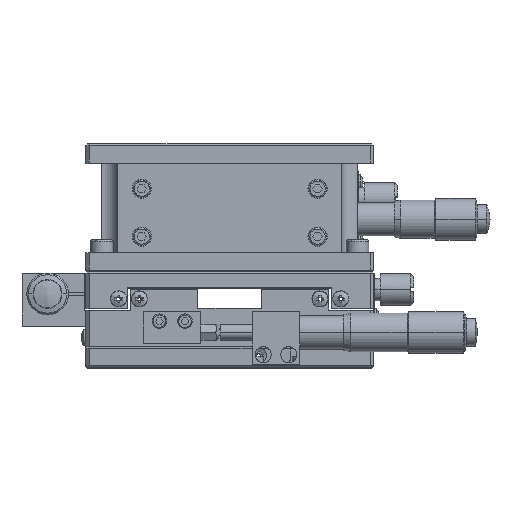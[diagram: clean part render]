
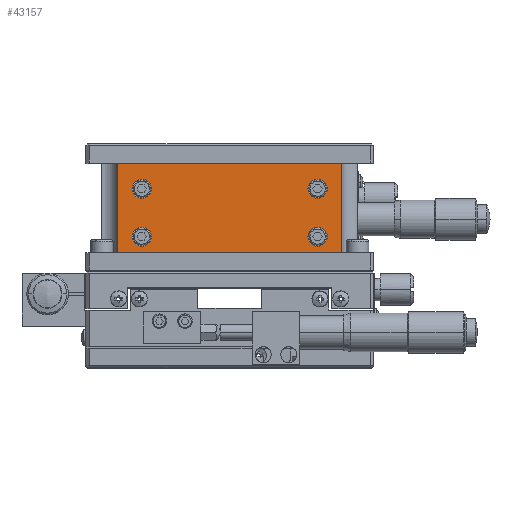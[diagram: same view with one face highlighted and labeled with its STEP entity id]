
A CAD part, top view. The second image highlights one B-rep face of the part: STEP entity #43157.
In plain terms, the highlighted planar face has unit normal (0, 0, 1).
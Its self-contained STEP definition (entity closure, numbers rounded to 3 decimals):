
#17 = VERTEX_POINT ( 'NONE', #25981 ) ;
#439 = EDGE_LOOP ( 'NONE', ( #16323, #31661 ) ) ;
#950 = VERTEX_POINT ( 'NONE', #19604 ) ;
#1837 = CIRCLE ( 'NONE', #23078, 3. ) ;
#1898 = DIRECTION ( 'NONE',  ( 0., -1., 0. ) ) ;
#1994 = ORIENTED_EDGE ( 'NONE', *, *, #4494, .T. ) ;
#2078 = CARTESIAN_POINT ( 'NONE',  ( 80., 6., 41.662 ) ) ;
#3914 = EDGE_LOOP ( 'NONE', ( #20111, #41822 ) ) ;
#4494 = EDGE_CURVE ( 'NONE', #19108, #22963, #44198, .T. ) ;
#4585 = DIRECTION ( 'NONE',  ( 1., 0., 0. ) ) ;
#5644 = LINE ( 'NONE', #12142, #23213 ) ;
#5698 = LINE ( 'NONE', #7726, #7457 ) ;
#6143 = ORIENTED_EDGE ( 'NONE', *, *, #32525, .F. ) ;
#6350 = CARTESIAN_POINT ( 'NONE',  ( 69.5, 11., 41.662 ) ) ;
#7008 = CIRCLE ( 'NONE', #16818, 3. ) ;
#7097 = EDGE_CURVE ( 'NONE', #34717, #19108, #5644, .T. ) ;
#7457 = VECTOR ( 'NONE', #45303, 1000. ) ;
#7595 = CARTESIAN_POINT ( 'NONE',  ( 14.5, 11., 41.662 ) ) ;
#7726 = CARTESIAN_POINT ( 'NONE',  ( 80., 6., 41.662 ) ) ;
#7972 = VERTEX_POINT ( 'NONE', #45528 ) ;
#8444 = CARTESIAN_POINT ( 'NONE',  ( 17.5, 26., 41.662 ) ) ;
#8669 = CIRCLE ( 'NONE', #41035, 3. ) ;
#8762 = DIRECTION ( 'NONE',  ( 0., 1., 0. ) ) ;
#8968 = CIRCLE ( 'NONE', #43972, 3. ) ;
#9902 = LINE ( 'NONE', #2078, #18725 ) ;
#10800 = VERTEX_POINT ( 'NONE', #37569 ) ;
#10808 = CARTESIAN_POINT ( 'NONE',  ( 72.5, 26., 41.662 ) ) ;
#10968 = DIRECTION ( 'NONE',  ( 1., 0., 0. ) ) ;
#12120 = DIRECTION ( 'NONE',  ( 1., 0., 0. ) ) ;
#12142 = CARTESIAN_POINT ( 'NONE',  ( 90., 34., 41.662 ) ) ;
#12719 = ORIENTED_EDGE ( 'NONE', *, *, #20443, .F. ) ;
#12988 = CARTESIAN_POINT ( 'NONE',  ( 75.5, 26., 41.662 ) ) ;
#13247 = EDGE_CURVE ( 'NONE', #28646, #27975, #7008, .T. ) ;
#13500 = ORIENTED_EDGE ( 'NONE', *, *, #43537, .F. ) ;
#14155 = EDGE_CURVE ( 'NONE', #27975, #28646, #8669, .T. ) ;
#15082 = DIRECTION ( 'NONE',  ( 0., 0., 1. ) ) ;
#15636 = CARTESIAN_POINT ( 'NONE',  ( 72.5, 11., 41.662 ) ) ;
#16265 = DIRECTION ( 'NONE',  ( 1., 0., 0. ) ) ;
#16286 = FACE_BOUND ( 'NONE', #439, .T. ) ;
#16323 = ORIENTED_EDGE ( 'NONE', *, *, #48179, .F. ) ;
#16474 = ORIENTED_EDGE ( 'NONE', *, *, #20285, .F. ) ;
#16818 = AXIS2_PLACEMENT_3D ( 'NONE', #22070, #37476, #22553 ) ;
#17032 = CARTESIAN_POINT ( 'NONE',  ( 10., 6., 41.662 ) ) ;
#17153 = DIRECTION ( 'NONE',  ( 1., 0., 0. ) ) ;
#17268 = VERTEX_POINT ( 'NONE', #6350 ) ;
#18725 = VECTOR ( 'NONE', #1898, 1000. ) ;
#18865 = AXIS2_PLACEMENT_3D ( 'NONE', #35009, #43088, #8762 ) ;
#19108 = VERTEX_POINT ( 'NONE', #23855 ) ;
#19539 = DIRECTION ( 'NONE',  ( 0., 0., 1. ) ) ;
#19604 = CARTESIAN_POINT ( 'NONE',  ( 69.5, 26., 41.662 ) ) ;
#20111 = ORIENTED_EDGE ( 'NONE', *, *, #14155, .F. ) ;
#20119 = EDGE_LOOP ( 'NONE', ( #45374, #12719 ) ) ;
#20285 = EDGE_CURVE ( 'NONE', #10800, #17268, #36951, .T. ) ;
#20443 = EDGE_CURVE ( 'NONE', #7972, #17, #48099, .T. ) ;
#20740 = CARTESIAN_POINT ( 'NONE',  ( 72.5, 11., 41.662 ) ) ;
#21052 = ORIENTED_EDGE ( 'NONE', *, *, #45861, .F. ) ;
#22070 = CARTESIAN_POINT ( 'NONE',  ( 17.5, 11., 41.662 ) ) ;
#22553 = DIRECTION ( 'NONE',  ( 1., 0., 0. ) ) ;
#22824 = DIRECTION ( 'NONE',  ( 0., 0., 1. ) ) ;
#22963 = VERTEX_POINT ( 'NONE', #37670 ) ;
#23078 = AXIS2_PLACEMENT_3D ( 'NONE', #8444, #38183, #4585 ) ;
#23213 = VECTOR ( 'NONE', #27645, 1000. ) ;
#23506 = FACE_BOUND ( 'NONE', #20119, .T. ) ;
#23626 = CARTESIAN_POINT ( 'NONE',  ( 17.5, 26., 41.662 ) ) ;
#23855 = CARTESIAN_POINT ( 'NONE',  ( 10., 34., 41.662 ) ) ;
#24265 = DIRECTION ( 'NONE',  ( 0., 0., 1. ) ) ;
#24651 = FACE_BOUND ( 'NONE', #3914, .T. ) ;
#24859 = DIRECTION ( 'NONE',  ( 0., 0., 1. ) ) ;
#25981 = CARTESIAN_POINT ( 'NONE',  ( 20.5, 26., 41.662 ) ) ;
#27086 = EDGE_CURVE ( 'NONE', #17, #7972, #1837, .T. ) ;
#27220 = DIRECTION ( 'NONE',  ( 1., 0., 0. ) ) ;
#27299 = ORIENTED_EDGE ( 'NONE', *, *, #7097, .T. ) ;
#27645 = DIRECTION ( 'NONE',  ( -1., 0., 0. ) ) ;
#27670 = CARTESIAN_POINT ( 'NONE',  ( 17.5, 11., 41.662 ) ) ;
#27968 = DIRECTION ( 'NONE',  ( 0., -1., 0. ) ) ;
#27975 = VERTEX_POINT ( 'NONE', #39523 ) ;
#28646 = VERTEX_POINT ( 'NONE', #7595 ) ;
#30040 = VERTEX_POINT ( 'NONE', #36891 ) ;
#30112 = CIRCLE ( 'NONE', #30252, 3. ) ;
#30252 = AXIS2_PLACEMENT_3D ( 'NONE', #10808, #15082, #10968 ) ;
#30775 = CARTESIAN_POINT ( 'NONE',  ( 72.5, 26., 41.662 ) ) ;
#31296 = VECTOR ( 'NONE', #27968, 1000. ) ;
#31440 = EDGE_LOOP ( 'NONE', ( #16474, #6143 ) ) ;
#31661 = ORIENTED_EDGE ( 'NONE', *, *, #36496, .F. ) ;
#31692 = AXIS2_PLACEMENT_3D ( 'NONE', #15636, #22824, #16265 ) ;
#31731 = FACE_OUTER_BOUND ( 'NONE', #40064, .T. ) ;
#32525 = EDGE_CURVE ( 'NONE', #17268, #10800, #8968, .T. ) ;
#34372 = AXIS2_PLACEMENT_3D ( 'NONE', #30775, #38691, #12120 ) ;
#34717 = VERTEX_POINT ( 'NONE', #47475 ) ;
#35009 = CARTESIAN_POINT ( 'NONE',  ( 80., 6., 41.662 ) ) ;
#36496 = EDGE_CURVE ( 'NONE', #950, #37483, #46803, .T. ) ;
#36891 = CARTESIAN_POINT ( 'NONE',  ( 80., 6., 41.662 ) ) ;
#36951 = CIRCLE ( 'NONE', #31692, 3. ) ;
#37476 = DIRECTION ( 'NONE',  ( 0., 0., 1. ) ) ;
#37483 = VERTEX_POINT ( 'NONE', #12988 ) ;
#37569 = CARTESIAN_POINT ( 'NONE',  ( 75.5, 11., 41.662 ) ) ;
#37670 = CARTESIAN_POINT ( 'NONE',  ( 10., 6., 41.662 ) ) ;
#38183 = DIRECTION ( 'NONE',  ( 0., 0., 1. ) ) ;
#38672 = PLANE ( 'NONE',  #18865 ) ;
#38691 = DIRECTION ( 'NONE',  ( 0., 0., 1. ) ) ;
#39523 = CARTESIAN_POINT ( 'NONE',  ( 20.5, 11., 41.662 ) ) ;
#40064 = EDGE_LOOP ( 'NONE', ( #27299, #1994, #21052, #13500 ) ) ;
#41035 = AXIS2_PLACEMENT_3D ( 'NONE', #27670, #24265, #46081 ) ;
#41822 = ORIENTED_EDGE ( 'NONE', *, *, #13247, .F. ) ;
#42434 = AXIS2_PLACEMENT_3D ( 'NONE', #23626, #19539, #27220 ) ;
#43088 = DIRECTION ( 'NONE',  ( 0., 0., -1. ) ) ;
#43157 = ADVANCED_FACE ( 'NONE', ( #31731, #16286, #44175, #23506, #24651 ), #38672, .F. ) ;
#43537 = EDGE_CURVE ( 'NONE', #34717, #30040, #9902, .T. ) ;
#43972 = AXIS2_PLACEMENT_3D ( 'NONE', #20740, #24859, #17153 ) ;
#44175 = FACE_BOUND ( 'NONE', #31440, .T. ) ;
#44198 = LINE ( 'NONE', #17032, #31296 ) ;
#45303 = DIRECTION ( 'NONE',  ( -1., 0., 0. ) ) ;
#45374 = ORIENTED_EDGE ( 'NONE', *, *, #27086, .F. ) ;
#45528 = CARTESIAN_POINT ( 'NONE',  ( 14.5, 26., 41.662 ) ) ;
#45861 = EDGE_CURVE ( 'NONE', #30040, #22963, #5698, .T. ) ;
#46081 = DIRECTION ( 'NONE',  ( 1., 0., 0. ) ) ;
#46803 = CIRCLE ( 'NONE', #34372, 3. ) ;
#47475 = CARTESIAN_POINT ( 'NONE',  ( 80., 34., 41.662 ) ) ;
#48099 = CIRCLE ( 'NONE', #42434, 3. ) ;
#48179 = EDGE_CURVE ( 'NONE', #37483, #950, #30112, .T. ) ;
